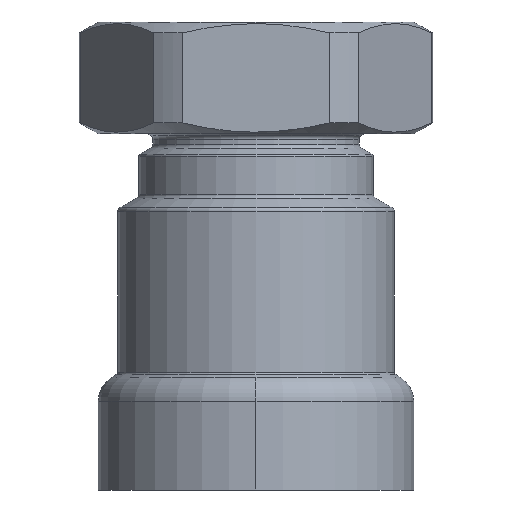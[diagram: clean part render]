
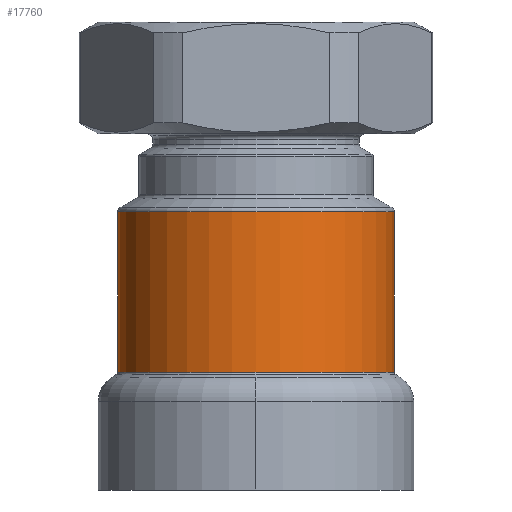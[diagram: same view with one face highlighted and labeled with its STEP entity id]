
A CAD part, front view. The second image highlights one B-rep face of the part: STEP entity #17760.
In plain terms, the highlighted cylindrical face has radius 24.55 mm (diameter 49.1 mm), a partial arc.
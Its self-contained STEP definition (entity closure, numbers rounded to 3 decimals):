
#17350=CARTESIAN_POINT('',(50.033,68.111,-87.494)
);
#17360=DIRECTION('',(0.,0.,-1.));
#17370=DIRECTION('',(1.,0.,0.));
#17380=AXIS2_PLACEMENT_3D('',#17350,#17360,#17370);
#17390=CYLINDRICAL_SURFACE('',#17380,24.55);
#17400=CARTESIAN_POINT('',(74.583,68.111,-87.494)
);
#17410=DIRECTION('',(0.,0.,-1.));
#17420=VECTOR('',#17410,1.);
#17430=LINE('',#17400,#17420);
#17440=CARTESIAN_POINT('',(74.583,68.111,-72.434))
;
#17450=VERTEX_POINT('',#17440);
#17460=CARTESIAN_POINT('',(74.583,68.111,-100.989)
);
#17470=VERTEX_POINT('',#17460);
#17480=EDGE_CURVE('',#17450,#17470,#17430,.T.);
#17490=ORIENTED_EDGE('',*,*,#17480,.F.);
#17500=CARTESIAN_POINT('',(50.033,68.111,-100.989)
);
#17510=DIRECTION('',(0.,0.,-1.));
#17520=DIRECTION('',(-1.,0.,0.));
#17530=AXIS2_PLACEMENT_3D('',#17500,#17510,#17520);
#17540=CIRCLE('',#17530,24.55);
#17550=CARTESIAN_POINT('',(25.483,68.111,-100.989)
);
#17560=VERTEX_POINT('',#17550);
#17570=EDGE_CURVE('',#17470,#17560,#17540,.T.);
#17580=ORIENTED_EDGE('',*,*,#17570,.F.);
#17590=CARTESIAN_POINT('',(25.483,68.111,-87.494)
);
#17600=DIRECTION('',(0.,0.,-1.));
#17610=VECTOR('',#17600,1.);
#17620=LINE('',#17590,#17610);
#17630=CARTESIAN_POINT('',(25.483,68.111,-72.434))
;
#17640=VERTEX_POINT('',#17630);
#17650=EDGE_CURVE('',#17640,#17560,#17620,.T.);
#17660=ORIENTED_EDGE('',*,*,#17650,.T.);
#17670=CARTESIAN_POINT('',(50.033,68.111,-72.434))
;
#17680=DIRECTION('',(0.,0.,-1.));
#17690=DIRECTION('',(1.,0.,0.));
#17700=AXIS2_PLACEMENT_3D('',#17670,#17680,#17690);
#17710=CIRCLE('',#17700,24.55);
#17720=EDGE_CURVE('',#17450,#17640,#17710,.T.);
#17730=ORIENTED_EDGE('',*,*,#17720,.T.);
#17740=EDGE_LOOP('',(#17730,#17660,#17580,#17490));
#17750=FACE_OUTER_BOUND('',#17740,.T.);
#17760=ADVANCED_FACE('',(#17750),#17390,.T.);
